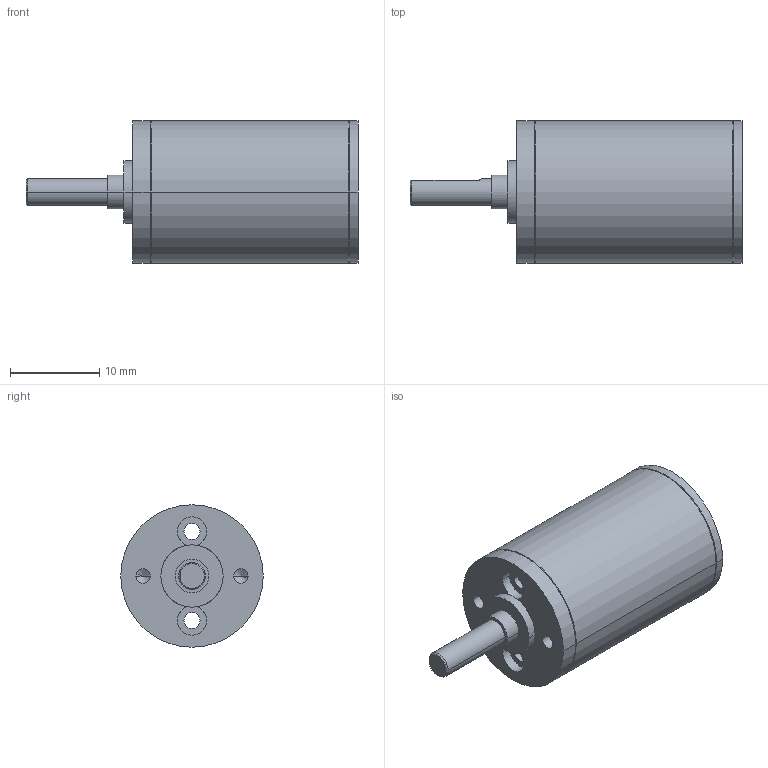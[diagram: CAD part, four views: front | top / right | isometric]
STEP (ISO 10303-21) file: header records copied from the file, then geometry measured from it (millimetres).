
FILE_DESCRIPTION((''),'2;1');
FILE_NAME('GS16V','2016-10-06T',('mmagpetk'),(''),'CREO PARAMETRIC BY PTC INC, 2016050','CREO PARAMETRIC BY PTC INC, 2016050','');
FILE_SCHEMA(('CONFIG_CONTROL_DESIGN'));
Length unit declared in the file: millimetre
Products named in the file (1): GS16V
Bounding box: 37.3 x 16 x 16 mm (x, y, z)
Volume: 4555.4 mm3; surface area: 2526.8 mm2
Topology: 1 solids, 1 shells, 51 faces, 115 edges, 68 vertices
Faces by surface type: cylinder 26, cone 13, plane 12
Entity records: 1866 total; most frequent: DIRECTION 274, CARTESIAN_POINT 242, ORIENTED_EDGE 222, AXIS2_PLACEMENT_3D 116, PRESENTATION_STYLE_ASSIGNMENT 112, STYLED_ITEM 112, CURVE_STYLE 111, EDGE_CURVE 111
